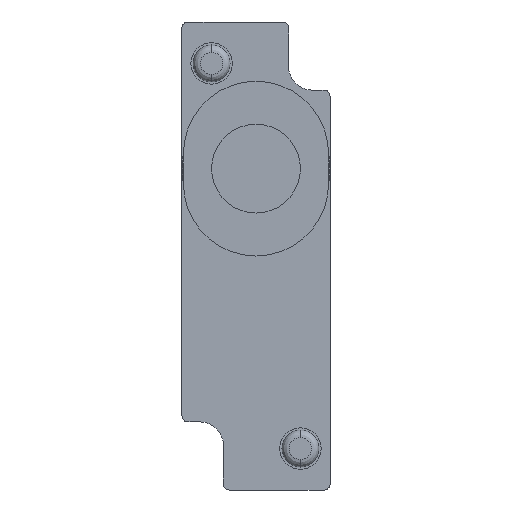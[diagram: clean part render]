
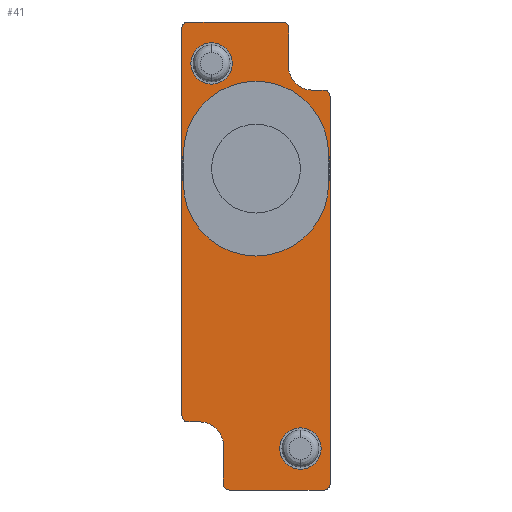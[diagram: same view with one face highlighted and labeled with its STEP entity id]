
A CAD part, front view. The second image highlights one B-rep face of the part: STEP entity #41.
In plain terms, the highlighted planar face has unit normal (0, -1, 0).
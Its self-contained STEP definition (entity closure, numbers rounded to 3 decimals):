
#41=ADVANCED_FACE('',(#102,#103,#104,#105),#101,.F.);
#101=PLANE('',#607);
#102=FACE_OUTER_BOUND('',#608,.T.);
#103=FACE_BOUND('',#609,.T.);
#104=FACE_BOUND('',#610,.T.);
#105=FACE_BOUND('',#611,.T.);
#604=CARTESIAN_POINT('',(-9.8,-5.,6.16));
#605=DIRECTION('',(0.,1.,0.));
#606=DIRECTION('',(1.,0.,0.));
#607=AXIS2_PLACEMENT_3D('',#604,#605,#606);
#608=EDGE_LOOP('',(#968,#969,#970,#971,#972,#973,#974,#975,#976,#977,#978,#979,#980,#981,#982,#983));
#609=EDGE_LOOP('',(#984,#985));
#610=EDGE_LOOP('',(#986,#987));
#611=EDGE_LOOP('',(#988,#989));
#968=ORIENTED_EDGE('',*,*,#1196,.T.);
#969=ORIENTED_EDGE('',*,*,#1197,.T.);
#970=ORIENTED_EDGE('',*,*,#1198,.T.);
#971=ORIENTED_EDGE('',*,*,#1199,.T.);
#972=ORIENTED_EDGE('',*,*,#1200,.T.);
#973=ORIENTED_EDGE('',*,*,#1201,.T.);
#974=ORIENTED_EDGE('',*,*,#1202,.F.);
#975=ORIENTED_EDGE('',*,*,#1203,.T.);
#976=ORIENTED_EDGE('',*,*,#1204,.T.);
#977=ORIENTED_EDGE('',*,*,#1205,.T.);
#978=ORIENTED_EDGE('',*,*,#1206,.T.);
#979=ORIENTED_EDGE('',*,*,#1207,.T.);
#980=ORIENTED_EDGE('',*,*,#1208,.T.);
#981=ORIENTED_EDGE('',*,*,#1209,.T.);
#982=ORIENTED_EDGE('',*,*,#1210,.F.);
#983=ORIENTED_EDGE('',*,*,#1211,.T.);
#984=ORIENTED_EDGE('',*,*,#1212,.F.);
#985=ORIENTED_EDGE('',*,*,#1213,.F.);
#986=ORIENTED_EDGE('',*,*,#1214,.F.);
#987=ORIENTED_EDGE('',*,*,#1215,.F.);
#988=ORIENTED_EDGE('',*,*,#1216,.F.);
#989=ORIENTED_EDGE('',*,*,#1217,.F.);
#1196=EDGE_CURVE('',#1334,#1335,#1336,.T.);
#1197=EDGE_CURVE('',#1335,#1342,#1343,.T.);
#1198=EDGE_CURVE('',#1342,#1349,#1350,.T.);
#1199=EDGE_CURVE('',#1349,#1356,#1357,.T.);
#1200=EDGE_CURVE('',#1356,#1363,#1364,.T.);
#1201=EDGE_CURVE('',#1363,#1370,#1371,.T.);
#1202=EDGE_CURVE('',#1377,#1370,#1378,.T.);
#1203=EDGE_CURVE('',#1377,#1384,#1385,.T.);
#1204=EDGE_CURVE('',#1384,#1391,#1392,.T.);
#1205=EDGE_CURVE('',#1391,#1398,#1399,.T.);
#1206=EDGE_CURVE('',#1398,#1405,#1406,.T.);
#1207=EDGE_CURVE('',#1405,#1412,#1413,.T.);
#1208=EDGE_CURVE('',#1412,#1419,#1420,.T.);
#1209=EDGE_CURVE('',#1419,#1426,#1427,.T.);
#1210=EDGE_CURVE('',#1433,#1426,#1434,.T.);
#1211=EDGE_CURVE('',#1433,#1334,#1440,.T.);
#1212=EDGE_CURVE('',#1446,#1447,#1448,.T.);
#1213=EDGE_CURVE('',#1447,#1446,#1454,.T.);
#1214=EDGE_CURVE('',#1460,#1461,#1462,.T.);
#1215=EDGE_CURVE('',#1461,#1460,#1468,.T.);
#1216=EDGE_CURVE('',#1474,#1475,#1476,.T.);
#1217=EDGE_CURVE('',#1475,#1474,#1482,.T.);
#1334=VERTEX_POINT('',#2084);
#1335=VERTEX_POINT('',#2085);
#1336=CIRCLE('',#2089,0.4);
#1342=VERTEX_POINT('',#2090);
#1343=LINE('',#2091,#2092);
#1349=VERTEX_POINT('',#2094);
#1350=CIRCLE('',#2098,0.4);
#1356=VERTEX_POINT('',#2099);
#1357=LINE('',#2100,#2101);
#1363=VERTEX_POINT('',#2103);
#1364=CIRCLE('',#2107,0.4);
#1370=VERTEX_POINT('',#2108);
#1371=LINE('',#2109,#2110);
#1377=VERTEX_POINT('',#2112);
#1378=CIRCLE('',#2116,1.6);
#1384=VERTEX_POINT('',#2117);
#1385=LINE('',#2118,#2119);
#1391=VERTEX_POINT('',#2121);
#1392=CIRCLE('',#2125,0.4);
#1398=VERTEX_POINT('',#2126);
#1399=LINE('',#2127,#2128);
#1405=VERTEX_POINT('',#2130);
#1406=CIRCLE('',#2134,0.4);
#1412=VERTEX_POINT('',#2135);
#1413=LINE('',#2136,#2137);
#1419=VERTEX_POINT('',#2139);
#1420=CIRCLE('',#2143,0.4);
#1426=VERTEX_POINT('',#2144);
#1427=LINE('',#2145,#2146);
#1433=VERTEX_POINT('',#2148);
#1434=CIRCLE('',#2152,1.6);
#1440=LINE('',#2153,#2154);
#1446=VERTEX_POINT('',#2156);
#1447=VERTEX_POINT('',#2157);
#1448=CIRCLE('',#2161,1.4);
#1454=CIRCLE('',#2165,1.4);
#1460=VERTEX_POINT('',#2166);
#1461=VERTEX_POINT('',#2167);
#1462=CIRCLE('',#2171,1.4);
#1468=CIRCLE('',#2175,1.4);
#1474=VERTEX_POINT('',#2176);
#1475=VERTEX_POINT('',#2177);
#1476=CIRCLE('',#2181,4.);
#1482=CIRCLE('',#2185,4.);
#2084=CARTESIAN_POINT('',(-1.6,-5.,2.6));
#2085=CARTESIAN_POINT('',(-2.,-5.,3.));
#2086=CARTESIAN_POINT('',(-2.,-5.,2.6));
#2087=DIRECTION('',(0.,-1.,0.));
#2088=DIRECTION('',(0.,0.,-1.));
#2089=AXIS2_PLACEMENT_3D('',#2086,#2087,#2088);
#2090=CARTESIAN_POINT('',(-8.4,-5.,3.));
#2091=CARTESIAN_POINT('',(-2.,-5.,3.));
#2092=VECTOR('',#2093,6.4);
#2093=DIRECTION('',(-1.,0.,0.));
#2094=CARTESIAN_POINT('',(-8.8,-5.,2.6));
#2095=CARTESIAN_POINT('',(-8.4,-5.,2.6));
#2096=DIRECTION('',(0.,-1.,0.));
#2097=DIRECTION('',(0.,0.,-1.));
#2098=AXIS2_PLACEMENT_3D('',#2095,#2096,#2097);
#2099=CARTESIAN_POINT('',(-8.8,-5.,-23.6));
#2100=CARTESIAN_POINT('',(-8.8,-5.,2.6));
#2101=VECTOR('',#2102,26.2);
#2102=DIRECTION('',(0.,0.,-1.));
#2103=CARTESIAN_POINT('',(-8.4,-5.,-24.));
#2104=CARTESIAN_POINT('',(-8.4,-5.,-23.6));
#2105=DIRECTION('',(0.,-1.,0.));
#2106=DIRECTION('',(0.,0.,-1.));
#2107=AXIS2_PLACEMENT_3D('',#2104,#2105,#2106);
#2108=CARTESIAN_POINT('',(-7.6,-5.,-24.));
#2109=CARTESIAN_POINT('',(-8.4,-5.,-24.));
#2110=VECTOR('',#2111,0.8);
#2111=DIRECTION('',(1.,0.,0.));
#2112=CARTESIAN_POINT('',(-6.,-5.,-25.6));
#2113=CARTESIAN_POINT('',(-7.6,-5.,-25.6));
#2114=DIRECTION('',(0.,-1.,0.));
#2115=DIRECTION('',(0.,0.,-1.));
#2116=AXIS2_PLACEMENT_3D('',#2113,#2114,#2115);
#2117=CARTESIAN_POINT('',(-6.,-5.,-28.2));
#2118=CARTESIAN_POINT('',(-6.,-5.,-25.6));
#2119=VECTOR('',#2120,2.6);
#2120=DIRECTION('',(0.,0.,-1.));
#2121=CARTESIAN_POINT('',(-5.6,-5.,-28.6));
#2122=CARTESIAN_POINT('',(-5.6,-5.,-28.2));
#2123=DIRECTION('',(0.,-1.,0.));
#2124=DIRECTION('',(0.,0.,-1.));
#2125=AXIS2_PLACEMENT_3D('',#2122,#2123,#2124);
#2126=CARTESIAN_POINT('',(0.8,-5.,-28.6));
#2127=CARTESIAN_POINT('',(-5.6,-5.,-28.6));
#2128=VECTOR('',#2129,6.4);
#2129=DIRECTION('',(1.,0.,0.));
#2130=CARTESIAN_POINT('',(1.2,-5.,-28.2));
#2131=CARTESIAN_POINT('',(0.8,-5.,-28.2));
#2132=DIRECTION('',(0.,-1.,0.));
#2133=DIRECTION('',(0.,0.,-1.));
#2134=AXIS2_PLACEMENT_3D('',#2131,#2132,#2133);
#2135=CARTESIAN_POINT('',(1.2,-5.,-2.));
#2136=CARTESIAN_POINT('',(1.2,-5.,-28.2));
#2137=VECTOR('',#2138,26.2);
#2138=DIRECTION('',(0.,0.,1.));
#2139=CARTESIAN_POINT('',(0.8,-5.,-1.6));
#2140=CARTESIAN_POINT('',(0.8,-5.,-2.));
#2141=DIRECTION('',(0.,-1.,0.));
#2142=DIRECTION('',(0.,0.,-1.));
#2143=AXIS2_PLACEMENT_3D('',#2140,#2141,#2142);
#2144=CARTESIAN_POINT('',(0.,-5.,-1.6));
#2145=CARTESIAN_POINT('',(0.8,-5.,-1.6));
#2146=VECTOR('',#2147,0.8);
#2147=DIRECTION('',(-1.,0.,0.));
#2148=CARTESIAN_POINT('',(-1.6,-5.,0.));
#2149=CARTESIAN_POINT('',(0.,-5.,0.));
#2150=DIRECTION('',(0.,-1.,0.));
#2151=DIRECTION('',(0.,0.,-1.));
#2152=AXIS2_PLACEMENT_3D('',#2149,#2150,#2151);
#2153=CARTESIAN_POINT('',(-1.6,-5.,0.));
#2154=VECTOR('',#2155,2.6);
#2155=DIRECTION('',(0.,0.,1.));
#2156=CARTESIAN_POINT('',(-0.8,-5.,-27.2));
#2157=CARTESIAN_POINT('',(-0.8,-5.,-24.4));
#2158=CARTESIAN_POINT('',(-0.8,-5.,-25.8));
#2159=DIRECTION('',(0.,-1.,0.));
#2160=DIRECTION('',(0.,0.,1.));
#2161=AXIS2_PLACEMENT_3D('',#2158,#2159,#2160);
#2162=CARTESIAN_POINT('',(-0.8,-5.,-25.8));
#2163=DIRECTION('',(0.,-1.,0.));
#2164=DIRECTION('',(0.,0.,1.));
#2165=AXIS2_PLACEMENT_3D('',#2162,#2163,#2164);
#2166=CARTESIAN_POINT('',(-6.8,-5.,-1.2));
#2167=CARTESIAN_POINT('',(-6.8,-5.,1.6));
#2168=CARTESIAN_POINT('',(-6.8,-5.,0.2));
#2169=DIRECTION('',(0.,-1.,0.));
#2170=DIRECTION('',(0.,0.,1.));
#2171=AXIS2_PLACEMENT_3D('',#2168,#2169,#2170);
#2172=CARTESIAN_POINT('',(-6.8,-5.,0.2));
#2173=DIRECTION('',(0.,-1.,0.));
#2174=DIRECTION('',(0.,0.,1.));
#2175=AXIS2_PLACEMENT_3D('',#2172,#2173,#2174);
#2176=CARTESIAN_POINT('',(-3.8,-5.,-2.9));
#2177=CARTESIAN_POINT('',(-3.8,-5.,-10.9));
#2178=CARTESIAN_POINT('',(-3.8,-5.,-6.9));
#2179=DIRECTION('',(0.,-1.,0.));
#2180=DIRECTION('',(0.,0.,-1.));
#2181=AXIS2_PLACEMENT_3D('',#2178,#2179,#2180);
#2182=CARTESIAN_POINT('',(-3.8,-5.,-6.9));
#2183=DIRECTION('',(0.,-1.,0.));
#2184=DIRECTION('',(0.,0.,-1.));
#2185=AXIS2_PLACEMENT_3D('',#2182,#2183,#2184);
